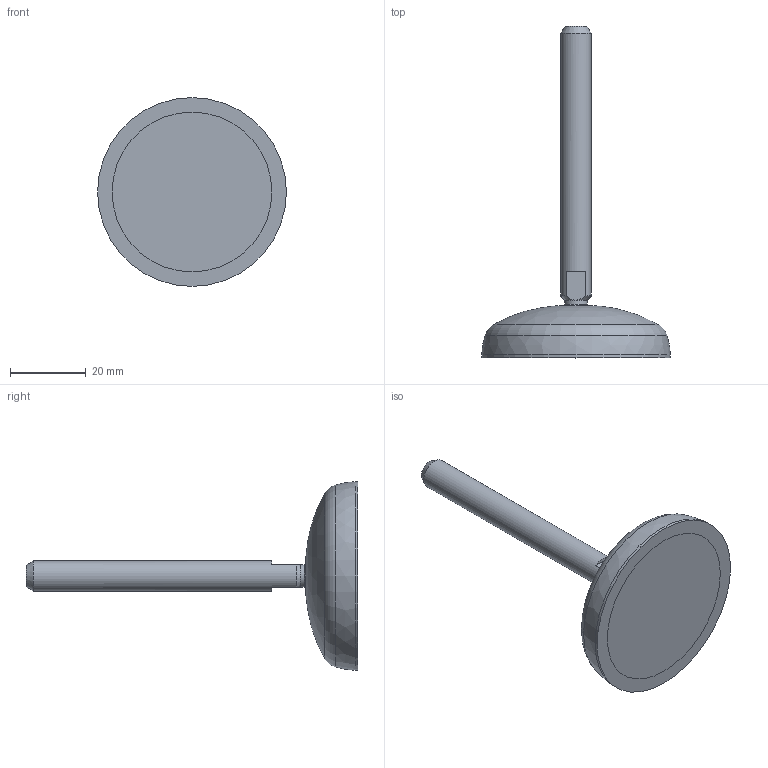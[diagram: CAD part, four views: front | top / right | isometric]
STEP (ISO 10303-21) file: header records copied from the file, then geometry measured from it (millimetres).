
FILE_DESCRIPTION(/* description */ (''),/* implementation_level */ '2;1');
FILE_NAME(/* name */ 'C:\Users\Stefan.Nesic\Desktop\01010STEP\000Verifica\CORRETTI\P050M8X88.stp',/* time_stamp */ '2022-07-12T10:57:32+02:00',/* author */ (''),/* organization */ (''),/* preprocessor_version */ 'ST-DEVELOPER v18.1',/* originating_system */ 'Autodesk Inventor 2021',/* authorisation */ '');
FILE_SCHEMA (('AUTOMOTIVE_DESIGN { 1 0 10303 214 3 1 1 }'));
Length unit declared in the file: millimetre
Products named in the file (1): P050M8X88
Bounding box: 49.98 x 87.87 x 49.98 mm (x, y, z)
Volume: 24034.3 mm3; surface area: 7255.8 mm2
Topology: 2 solids, 2 shells, 21 faces, 49 edges, 32 vertices
Faces by surface type: plane 8, cone 4, cylinder 3, torus 2, bspline 2, sphere 2
Full cylindrical faces by diameter (mm): 6 x1, 8 x1, 8.3 x1
Entity records: 729 total; most frequent: CARTESIAN_POINT 194, DIRECTION 109, ORIENTED_EDGE 92, AXIS2_PLACEMENT_3D 49, EDGE_CURVE 46, VERTEX_POINT 32, CIRCLE 29, EDGE_LOOP 24
